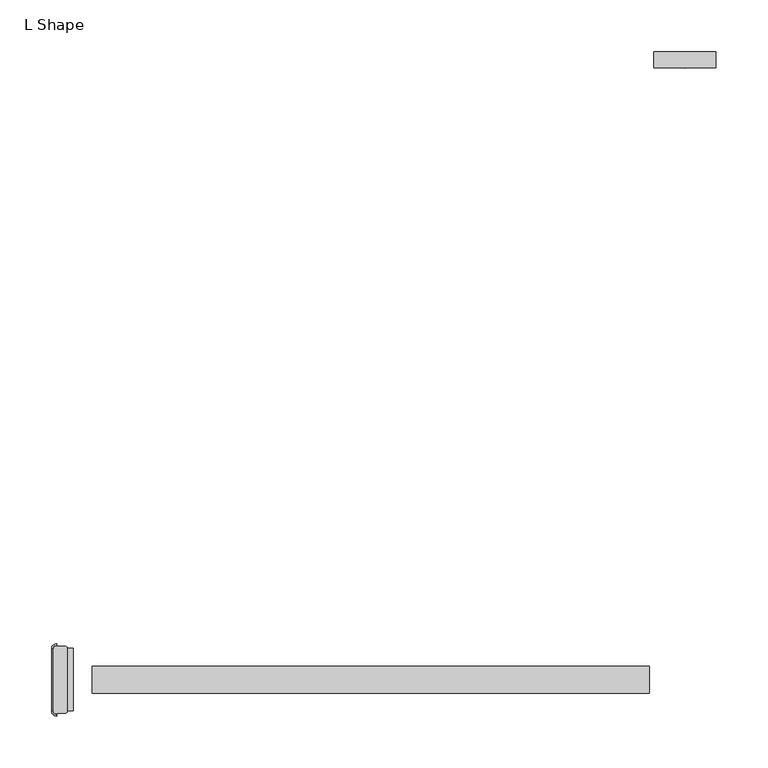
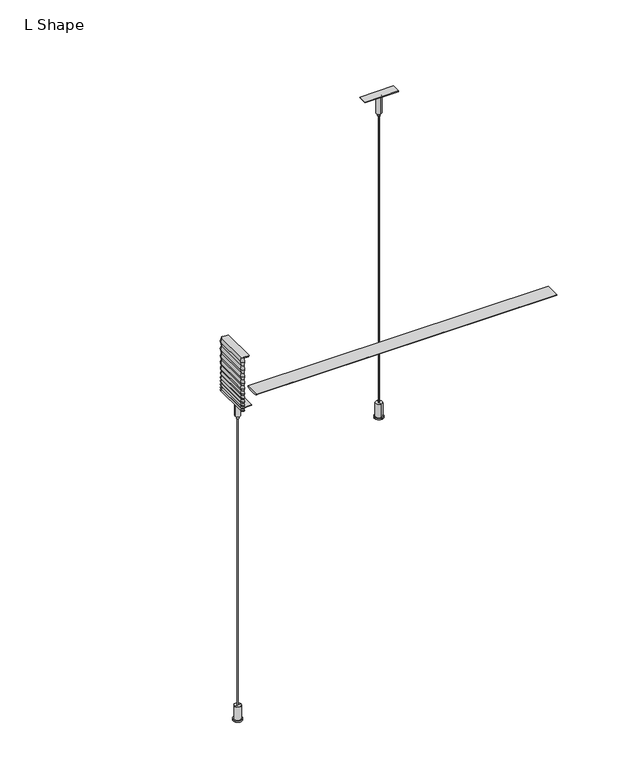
"""IFC4 building model written with IfcOpenShell, lengths in millimetres: light fixture geometry, Lighting-Pendant-Betacalco-Bellows-L_Shape : L Shape."""

from ifc_helpers import new_model, si_unit, point, frame, frame_2d, origin, place, context, project, spatial, polyline, circle_curve, trimmed, segment, composite_curve, outline, extrude, source, transform, mapped, element, save
from ifc_brep_helpers import plane_surface, cylinder_surface, revolved_surface, advanced_brep


def l_shape_06cc43b9(model_context):
    return source(origin(), model_context, "Body", "SolidModel", [
        advanced_brep(
        [(-304.8, 35.1474913, 611.632), (-304.8, 33.3694913, 613.664), (-304.8, 35.1474913, 616.204), (-304.8, 33.3694913, 618.744), (-304.8, 35.1474913, 621.792), (-304.8, 33.3694913, 624.84), (-304.8, 35.1474913, 628.396), (-304.8, 33.3694913, 631.952), (-304.8, 35.1474913, 635.762), (-304.8, 33.3694913, 639.572), (-304.8, 35.11885, 644.0703509), (-304.8, 33.3966915, 648.6460566), (-304.8, 35.1239968, 653.7288728), (-304.8, 33.3919128, 658.8119386), (-304.8, 35.1278878, 664.402389), (-304.8, 33.3882749, 669.9929656), (-304.8, 35.1308966, 676.091104), (-304.8, 33.3848944, 682.1911894), (-304.8, 35.1351705, 689.3067168), (-304.8, 33.3815995, 696.4195673), (-304.8, 35.1359826, 703.786321), (-304.8, 33.3694913, 711.2), (-304.8, 32.6229178, 711.2), (-304.8, 32.6229178, 709.8332722), (-304.8, -32.6229178, 709.8332722), (-304.8, -32.6229178, 711.2), (-304.8, -33.3694913, 711.2), (-304.8, -35.1359826, 703.786321), (-304.8, -33.3815995, 696.4195673), (-304.8, -35.1351705, 689.3067168), (-304.8, -33.3848944, 682.1911894), (-304.8, -35.1308966, 676.091104), (-304.8, -33.3882749, 669.9929656), (-304.8, -35.1278878, 664.402389), (-304.8, -33.3919128, 658.8119386), (-304.8, -35.1239968, 653.7288728), (-304.8, -33.3966915, 648.6460566), (-304.8, -35.11885, 644.0703509), (-304.8, -33.3694913, 639.572), (-304.8, -35.1474913, 635.762), (-304.8, -33.3694913, 631.952), (-304.8, -35.1474913, 628.396), (-304.8, -33.3694913, 624.84), (-304.8, -35.1474913, 621.792), (-304.8, -33.3694913, 618.744), (-304.8, -35.1474913, 616.204), (-304.8, -33.3694913, 613.664), (-304.8, -35.1474913, 611.632), (-304.8, -33.3694913, 609.6), (-304.8, 33.3694913, 609.6), (-308.213, 29.9564913, 609.6), (-309.991, 29.9564913, 611.632), (-308.213, -29.9564913, 609.6), (-308.213, 29.9564913, 711.2), (-308.213, -29.9564913, 711.2), (-295.9807007, -32.5154703, 711.2), (-294.8222216, -31.4000598, 711.2), (-294.8222216, 31.4000598, 711.2), (-295.9807007, 32.5154703, 711.2), (-309.9794913, 29.9564913, 703.786321), (-308.2251082, 29.9564913, 696.4195673), (-309.9786792, 29.9564913, 689.3067168), (-308.2284031, 29.9564913, 682.1911894), (-309.9744054, 29.9564913, 676.091104), (-308.2317837, 29.9564913, 669.9929656), (-309.9713965, 29.9564913, 664.402389), (-308.2354215, 29.9564913, 658.8119386), (-309.9675055, 29.9564913, 653.7288728), (-308.2402002, 29.9564913, 648.6460566), (-309.9623587, 29.9564913, 644.0703509), (-308.213, 29.9564913, 639.572), (-309.991, 29.9564913, 635.762), (-308.213, 29.9564913, 631.952), (-309.991, 29.9564913, 628.396), (-308.213, 29.9564913, 624.84), (-309.991, 29.9564913, 621.792), (-308.213, 29.9564913, 618.744), (-309.991, 29.9564913, 616.204), (-308.213, 29.9564913, 613.664), (-309.991, -29.9564913, 611.632), (-309.9794913, -29.9564913, 703.786321), (-308.2251082, -29.9564913, 696.4195673), (-309.9786792, -29.9564913, 689.3067168), (-308.2284031, -29.9564913, 682.1911894), (-309.9744054, -29.9564913, 676.091104), (-308.2317837, -29.9564913, 669.9929656), (-309.9713965, -29.9564913, 664.402389), (-308.2354215, -29.9564913, 658.8119386), (-309.9675055, -29.9564913, 653.7288728), (-308.2402002, -29.9564913, 648.6460566), (-309.9623587, -29.9564913, 644.0703509), (-308.213, -29.9564913, 639.572), (-309.991, -29.9564913, 635.762), (-308.213, -29.9564913, 631.952), (-309.991, -29.9564913, 628.396), (-308.213, -29.9564913, 624.84), (-309.991, -29.9564913, 621.792), (-308.213, -29.9564913, 618.744), (-309.991, -29.9564913, 616.204), (-308.213, -29.9564913, 613.664), (-294.8222216, -31.4000598, 709.8332722), (-295.9807007, -32.5154703, 709.8332722), (-295.9807007, 32.5154703, 709.8332722), (-294.8222216, 31.4000598, 709.8332722)],
        [
            (0, 1),
            (1, 2),
            (2, 3),
            (3, 4),
            (4, 5),
            (5, 6),
            (6, 7),
            (7, 8),
            (8, 9),
            (9, 10),
            (10, 11),
            (11, 12),
            (12, 13),
            (13, 14),
            (14, 15),
            (15, 16),
            (16, 17),
            (17, 18),
            (18, 19),
            (19, 20),
            (20, 21),
            (21, 22),
            (22, 23),
            (23, 24),
            (24, 25),
            (25, 26),
            (26, 27),
            (27, 28),
            (28, 29),
            (29, 30),
            (30, 31),
            (31, 32),
            (32, 33),
            (33, 34),
            (34, 35),
            (35, 36),
            (36, 37),
            (37, 38),
            (38, 39),
            (39, 40),
            (40, 41),
            (41, 42),
            (42, 43),
            (43, 44),
            (44, 45),
            (45, 46),
            (46, 47),
            (47, 48),
            (48, 49),
            (49, 0),
            (49, 50, circle_curve(frame((-304.8, 29.9564913, 609.6), z_axis=(0.0, 0.0, 1.0), x_axis=(0.0, 1.0, 0.0)), 3.413)),
            (50, 51),
            (51, 0, circle_curve(frame((-304.8, 29.9564913, 611.632), z_axis=(0.0, 0.0, -1.0), x_axis=(0.0, 1.0, 0.0)), 5.191)),
            (48, 52, circle_curve(frame((-304.8, -29.9564913, 609.6), z_axis=(0.0, 0.0, -1.0), x_axis=(-1.0, 0.0, 0.0)), 3.413)),
            (52, 50),
            (53, 54),
            (54, 26, circle_curve(frame((-304.8, -29.9564913, 711.2), z_axis=(0.0, 0.0, 1.0), x_axis=(-1.0, 0.0, 0.0)), 3.413)),
            (25, 55),
            (55, 56),
            (56, 57),
            (57, 58),
            (58, 22),
            (21, 53, circle_curve(frame((-304.8, 29.9564913, 711.2), z_axis=(0.0, 0.0, 1.0), x_axis=(0.0, 1.0, 0.0)), 3.413)),
            (20, 59, circle_curve(frame((-304.8, 29.9564913, 703.786321), z_axis=(0.0, 0.0, 1.0), x_axis=(0.0, 1.0, 0.0)), 5.1794913)),
            (59, 53),
            (19, 60, circle_curve(frame((-304.8, 29.9564913, 696.4195673), z_axis=(0.0, 0.0, 1.0), x_axis=(0.0, 1.0, 0.0)), 3.4251082)),
            (60, 59),
            (18, 61, circle_curve(frame((-304.8, 29.9564913, 689.3067168), z_axis=(0.0, 0.0, 1.0), x_axis=(0.0, 1.0, 0.0)), 5.1786792)),
            (61, 60),
            (17, 62, circle_curve(frame((-304.8, 29.9564913, 682.1911894), z_axis=(0.0, 0.0, 1.0), x_axis=(0.0, 1.0, 0.0)), 3.4284031)),
            (62, 61),
            (16, 63, circle_curve(frame((-304.8, 29.9564913, 676.091104), z_axis=(0.0, 0.0, 1.0), x_axis=(0.0, 1.0, 0.0)), 5.1744054)),
            (63, 62),
            (15, 64, circle_curve(frame((-304.8, 29.9564913, 669.9929656), z_axis=(0.0, 0.0, 1.0), x_axis=(0.0, 1.0, 0.0)), 3.4317837)),
            (64, 63),
            (14, 65, circle_curve(frame((-304.8, 29.9564913, 664.402389), z_axis=(0.0, 0.0, 1.0), x_axis=(0.0, 1.0, 0.0)), 5.1713965)),
            (65, 64),
            (13, 66, circle_curve(frame((-304.8, 29.9564913, 658.8119386), z_axis=(0.0, 0.0, 1.0), x_axis=(0.0, 1.0, 0.0)), 3.4354215)),
            (66, 65),
            (12, 67, circle_curve(frame((-304.8, 29.9564913, 653.7288728), z_axis=(0.0, 0.0, 1.0), x_axis=(0.0, 1.0, 0.0)), 5.1675055)),
            (67, 66),
            (11, 68, circle_curve(frame((-304.8, 29.9564913, 648.6460566), z_axis=(0.0, 0.0, 1.0), x_axis=(0.0, 1.0, 0.0)), 3.4402002)),
            (68, 67),
            (10, 69, circle_curve(frame((-304.8, 29.9564913, 644.0703509), z_axis=(0.0, 0.0, 1.0), x_axis=(0.0, 1.0, 0.0)), 5.1623587)),
            (69, 68),
            (9, 70, circle_curve(frame((-304.8, 29.9564913, 639.572), z_axis=(0.0, 0.0, 1.0), x_axis=(0.0, 1.0, 0.0)), 3.413)),
            (70, 69),
            (8, 71, circle_curve(frame((-304.8, 29.9564913, 635.762), z_axis=(0.0, 0.0, 1.0), x_axis=(0.0, 1.0, 0.0)), 5.191)),
            (71, 70),
            (7, 72, circle_curve(frame((-304.8, 29.9564913, 631.952), z_axis=(0.0, 0.0, 1.0), x_axis=(0.0, 1.0, 0.0)), 3.413)),
            (72, 71),
            (6, 73, circle_curve(frame((-304.8, 29.9564913, 628.396), z_axis=(0.0, 0.0, 1.0), x_axis=(0.0, 1.0, 0.0)), 5.191)),
            (73, 72),
            (5, 74, circle_curve(frame((-304.8, 29.9564913, 624.84), z_axis=(0.0, 0.0, 1.0), x_axis=(0.0, 1.0, 0.0)), 3.413)),
            (74, 73),
            (4, 75, circle_curve(frame((-304.8, 29.9564913, 621.792), z_axis=(0.0, 0.0, 1.0), x_axis=(0.0, 1.0, 0.0)), 5.191)),
            (75, 74),
            (3, 76, circle_curve(frame((-304.8, 29.9564913, 618.744), z_axis=(0.0, 0.0, 1.0), x_axis=(0.0, 1.0, 0.0)), 3.413)),
            (76, 75),
            (2, 77, circle_curve(frame((-304.8, 29.9564913, 616.204), z_axis=(0.0, 0.0, 1.0), x_axis=(0.0, 1.0, 0.0)), 5.191)),
            (77, 76),
            (1, 78, circle_curve(frame((-304.8, 29.9564913, 613.664), z_axis=(0.0, 0.0, 1.0), x_axis=(0.0, 1.0, 0.0)), 3.413)),
            (78, 77),
            (51, 78),
            (52, 79),
            (79, 51),
            (59, 80),
            (80, 54),
            (60, 81),
            (81, 80),
            (61, 82),
            (82, 81),
            (62, 83),
            (83, 82),
            (63, 84),
            (84, 83),
            (64, 85),
            (85, 84),
            (65, 86),
            (86, 85),
            (66, 87),
            (87, 86),
            (67, 88),
            (88, 87),
            (68, 89),
            (89, 88),
            (69, 90),
            (90, 89),
            (70, 91),
            (91, 90),
            (71, 92),
            (92, 91),
            (72, 93),
            (93, 92),
            (73, 94),
            (94, 93),
            (74, 95),
            (95, 94),
            (75, 96),
            (96, 95),
            (76, 97),
            (97, 96),
            (77, 98),
            (98, 97),
            (78, 99),
            (99, 98),
            (79, 99),
            (100, 101),
            (101, 24),
            (23, 102),
            (102, 103),
            (103, 100),
            (55, 101),
            (100, 56),
            (58, 102),
            (57, 103),
            (47, 79, circle_curve(frame((-304.8, -29.9564913, 611.632), z_axis=(0.0, 0.0, -1.0), x_axis=(-1.0, 0.0, 0.0)), 5.191)),
            (80, 27, circle_curve(frame((-304.8, -29.9564913, 703.786321), z_axis=(0.0, 0.0, 1.0), x_axis=(-1.0, 0.0, 0.0)), 5.1794913)),
            (81, 28, circle_curve(frame((-304.8, -29.9564913, 696.4195673), z_axis=(0.0, 0.0, 1.0), x_axis=(-1.0, 0.0, 0.0)), 3.4251082)),
            (82, 29, circle_curve(frame((-304.8, -29.9564913, 689.3067168), z_axis=(0.0, 0.0, 1.0), x_axis=(-1.0, 0.0, 0.0)), 5.1786792)),
            (83, 30, circle_curve(frame((-304.8, -29.9564913, 682.1911894), z_axis=(0.0, 0.0, 1.0), x_axis=(-1.0, 0.0, 0.0)), 3.4284031)),
            (84, 31, circle_curve(frame((-304.8, -29.9564913, 676.091104), z_axis=(0.0, 0.0, 1.0), x_axis=(-1.0, 0.0, 0.0)), 5.1744054)),
            (85, 32, circle_curve(frame((-304.8, -29.9564913, 669.9929656), z_axis=(0.0, 0.0, 1.0), x_axis=(-1.0, 0.0, 0.0)), 3.4317837)),
            (86, 33, circle_curve(frame((-304.8, -29.9564913, 664.402389), z_axis=(0.0, 0.0, 1.0), x_axis=(-1.0, 0.0, 0.0)), 5.1713965)),
            (87, 34, circle_curve(frame((-304.8, -29.9564913, 658.8119386), z_axis=(0.0, 0.0, 1.0), x_axis=(-1.0, 0.0, 0.0)), 3.4354215)),
            (88, 35, circle_curve(frame((-304.8, -29.9564913, 653.7288728), z_axis=(0.0, 0.0, 1.0), x_axis=(-1.0, 0.0, 0.0)), 5.1675055)),
            (89, 36, circle_curve(frame((-304.8, -29.9564913, 648.6460566), z_axis=(0.0, 0.0, 1.0), x_axis=(-1.0, 0.0, 0.0)), 3.4402002)),
            (90, 37, circle_curve(frame((-304.8, -29.9564913, 644.0703509), z_axis=(0.0, 0.0, 1.0), x_axis=(-1.0, 0.0, 0.0)), 5.1623587)),
            (91, 38, circle_curve(frame((-304.8, -29.9564913, 639.572), z_axis=(0.0, 0.0, 1.0), x_axis=(-1.0, 0.0, 0.0)), 3.413)),
            (92, 39, circle_curve(frame((-304.8, -29.9564913, 635.762), z_axis=(0.0, 0.0, 1.0), x_axis=(-1.0, 0.0, 0.0)), 5.191)),
            (93, 40, circle_curve(frame((-304.8, -29.9564913, 631.952), z_axis=(0.0, 0.0, 1.0), x_axis=(-1.0, 0.0, 0.0)), 3.413)),
            (94, 41, circle_curve(frame((-304.8, -29.9564913, 628.396), z_axis=(0.0, 0.0, 1.0), x_axis=(-1.0, 0.0, 0.0)), 5.191)),
            (95, 42, circle_curve(frame((-304.8, -29.9564913, 624.84), z_axis=(0.0, 0.0, 1.0), x_axis=(-1.0, 0.0, 0.0)), 3.413)),
            (96, 43, circle_curve(frame((-304.8, -29.9564913, 621.792), z_axis=(0.0, 0.0, 1.0), x_axis=(-1.0, 0.0, 0.0)), 5.191)),
            (97, 44, circle_curve(frame((-304.8, -29.9564913, 618.744), z_axis=(0.0, 0.0, 1.0), x_axis=(-1.0, 0.0, 0.0)), 3.413)),
            (98, 45, circle_curve(frame((-304.8, -29.9564913, 616.204), z_axis=(0.0, 0.0, 1.0), x_axis=(-1.0, 0.0, 0.0)), 5.191)),
            (99, 46, circle_curve(frame((-304.8, -29.9564913, 613.664), z_axis=(0.0, 0.0, 1.0), x_axis=(-1.0, 0.0, 0.0)), 3.413)),
        ],
        [
            plane_surface(frame((-304.8, 35.3935941, 609.6), z_axis=(1.0, 0.0, 0.0), x_axis=(0.0, 0.0, 1.0))),
            revolved_surface(polyline([(-304.8, 35.1474913, 611.632), (-304.8, 33.3694913, 609.6)]), (-304.8, 29.9564913, 609.6), (0.0, 0.0, -1.0)),
            plane_surface(frame((-304.8, 29.9564913, 609.6), z_axis=(0.0, 0.0, -1.0), x_axis=(0.0, 1.0, 0.0))),
            plane_surface(frame((-304.8, 29.9564913, 711.2), z_axis=(0.0, 0.0, 1.0), x_axis=(0.0, 1.0, 0.0))),
            revolved_surface(polyline([(-304.8, 33.3694913, 711.2), (-304.8, 35.1359826, 703.786321)]), (-304.8, 29.9564913, 609.6), (0.0, 0.0, -1.0)),
            revolved_surface(polyline([(-304.8, 35.1359826, 703.786321), (-304.8, 33.3815995, 696.4195673)]), (-304.8, 29.9564913, 609.6), (0.0, 0.0, -1.0)),
            revolved_surface(polyline([(-304.8, 33.3815995, 696.4195673), (-304.8, 35.1351705, 689.3067168)]), (-304.8, 29.9564913, 609.6), (0.0, 0.0, -1.0)),
            revolved_surface(polyline([(-304.8, 35.1351705, 689.3067168), (-304.8, 33.3848944, 682.1911894)]), (-304.8, 29.9564913, 609.6), (0.0, 0.0, -1.0)),
            revolved_surface(polyline([(-304.8, 33.3848944, 682.1911894), (-304.8, 35.1308966, 676.091104)]), (-304.8, 29.9564913, 609.6), (0.0, 0.0, -1.0)),
            revolved_surface(polyline([(-304.8, 35.1308966, 676.091104), (-304.8, 33.3882749, 669.9929656)]), (-304.8, 29.9564913, 609.6), (0.0, 0.0, -1.0)),
            revolved_surface(polyline([(-304.8, 33.3882749, 669.9929656), (-304.8, 35.1278878, 664.402389)]), (-304.8, 29.9564913, 609.6), (0.0, 0.0, -1.0)),
            revolved_surface(polyline([(-304.8, 35.1278878, 664.402389), (-304.8, 33.3919128, 658.8119386)]), (-304.8, 29.9564913, 609.6), (0.0, 0.0, -1.0)),
            revolved_surface(polyline([(-304.8, 33.3919128, 658.8119386), (-304.8, 35.1239968, 653.7288728)]), (-304.8, 29.9564913, 609.6), (0.0, 0.0, -1.0)),
            revolved_surface(polyline([(-304.8, 35.1239968, 653.7288728), (-304.8, 33.3966915, 648.6460566)]), (-304.8, 29.9564913, 609.6), (0.0, 0.0, -1.0)),
            revolved_surface(polyline([(-304.8, 33.3966915, 648.6460566), (-304.8, 35.11885, 644.0703509)]), (-304.8, 29.9564913, 609.6), (0.0, 0.0, -1.0)),
            revolved_surface(polyline([(-304.8, 35.11885, 644.0703509), (-304.8, 33.3694913, 639.572)]), (-304.8, 29.9564913, 609.6), (0.0, 0.0, -1.0)),
            revolved_surface(polyline([(-304.8, 33.3694913, 639.572), (-304.8, 35.1474913, 635.762)]), (-304.8, 29.9564913, 609.6), (0.0, 0.0, -1.0)),
            revolved_surface(polyline([(-304.8, 35.1474913, 635.762), (-304.8, 33.3694913, 631.952)]), (-304.8, 29.9564913, 609.6), (0.0, 0.0, -1.0)),
            revolved_surface(polyline([(-304.8, 33.3694913, 631.952), (-304.8, 35.1474913, 628.396)]), (-304.8, 29.9564913, 609.6), (0.0, 0.0, -1.0)),
            revolved_surface(polyline([(-304.8, 35.1474913, 628.396), (-304.8, 33.3694913, 624.84)]), (-304.8, 29.9564913, 609.6), (0.0, 0.0, -1.0)),
            revolved_surface(polyline([(-304.8, 33.3694913, 624.84), (-304.8, 35.1474913, 621.792)]), (-304.8, 29.9564913, 609.6), (0.0, 0.0, -1.0)),
            revolved_surface(polyline([(-304.8, 35.1474913, 621.792), (-304.8, 33.3694913, 618.744)]), (-304.8, 29.9564913, 609.6), (0.0, 0.0, -1.0)),
            revolved_surface(polyline([(-304.8, 33.3694913, 618.744), (-304.8, 35.1474913, 616.204)]), (-304.8, 29.9564913, 609.6), (0.0, 0.0, -1.0)),
            revolved_surface(polyline([(-304.8, 35.1474913, 616.204), (-304.8, 33.3694913, 613.664)]), (-304.8, 29.9564913, 609.6), (0.0, 0.0, -1.0)),
            revolved_surface(polyline([(-304.8, 33.3694913, 613.664), (-304.8, 35.1474913, 611.632)]), (-304.8, 29.9564913, 609.6), (0.0, 0.0, -1.0)),
            plane_surface(frame((-309.991, 29.9564913, 611.632), z_axis=(-0.7525766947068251, 0.0, -0.6585046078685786), x_axis=(0.0, -1.0, 0.0))),
            plane_surface(frame((-308.213, 29.9564913, 711.2), z_axis=(-0.9727668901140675, 0.0, 0.23178562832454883), x_axis=(0.0, -1.0, 0.0))),
            plane_surface(frame((-309.9794913, 29.9564913, 703.786321), z_axis=(-0.9727944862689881, 0.0, -0.23166978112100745), x_axis=(0.0, -1.0, 0.0))),
            plane_surface(frame((-308.2251082, 29.9564913, 696.4195673), z_axis=(-0.9709287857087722, 0.0, 0.23936852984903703), x_axis=(0.0, -1.0, 0.0))),
            plane_surface(frame((-309.9786792, 29.9564913, 689.3067168), z_axis=(-0.9710540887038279, 0.0, -0.23885970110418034), x_axis=(0.0, -1.0, 0.0))),
            plane_surface(frame((-308.2284031, 29.9564913, 682.1911894), z_axis=(-0.9613939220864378, 0.0, 0.27517581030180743), x_axis=(0.0, -1.0, 0.0))),
            plane_surface(frame((-309.9744054, 29.9564913, 676.091104), z_axis=(-0.9615116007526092, 0.0, -0.2747643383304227), x_axis=(0.0, -1.0, 0.0))),
            plane_surface(frame((-308.2317837, 29.9564913, 669.9929656), z_axis=(-0.9548411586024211, 0.0, 0.29711674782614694), x_axis=(0.0, -1.0, 0.0))),
            plane_surface(frame((-309.9713965, 29.9564913, 664.402389), z_axis=(-0.9550153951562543, 0.0, -0.29655622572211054), x_axis=(0.0, -1.0, 0.0))),
            plane_surface(frame((-308.2354215, 29.9564913, 658.8119386), z_axis=(-0.9465545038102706, 0.0, 0.3225439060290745), x_axis=(0.0, -1.0, 0.0))),
            plane_surface(frame((-309.9675055, 29.9564913, 653.7288728), z_axis=(-0.9468211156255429, 0.0, -0.3217604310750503), x_axis=(0.0, -1.0, 0.0))),
            plane_surface(frame((-308.2402002, 29.9564913, 648.6460566), z_axis=(-0.9359069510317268, 0.0, 0.3522473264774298), x_axis=(0.0, -1.0, 0.0))),
            plane_surface(frame((-309.9623587, 29.9564913, 644.0703509), z_axis=(-0.9320046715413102, 0.0, -0.36244626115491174), x_axis=(0.0, -1.0, 0.0))),
            plane_surface(frame((-308.213, 29.9564913, 639.572), z_axis=(-0.9061831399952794, 0.0, 0.42288546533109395), x_axis=(0.0, -1.0, 0.0))),
            plane_surface(frame((-309.991, 29.9564913, 635.762), z_axis=(-0.9061831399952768, 0.0, -0.42288546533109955), x_axis=(0.0, -1.0, 0.0))),
            plane_surface(frame((-308.213, 29.9564913, 631.952), z_axis=(-0.8944271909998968, 0.0, 0.4472135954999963), x_axis=(0.0, -1.0, 0.0))),
            plane_surface(frame((-309.991, 29.9564913, 628.396), z_axis=(-0.8944271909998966, 0.0, -0.44721359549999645), x_axis=(0.0, -1.0, 0.0))),
            plane_surface(frame((-308.213, 29.9564913, 624.84), z_axis=(-0.8637789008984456, 0.0, 0.5038710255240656), x_axis=(0.0, -1.0, 0.0))),
            plane_surface(frame((-309.991, 29.9564913, 621.792), z_axis=(-0.8637789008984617, 0.0, -0.503871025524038), x_axis=(0.0, -1.0, 0.0))),
            plane_surface(frame((-308.213, 29.9564913, 618.744), z_axis=(-0.8192319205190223, 0.0, 0.5734623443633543), x_axis=(0.0, -1.0, 0.0))),
            plane_surface(frame((-309.991, 29.9564913, 616.204), z_axis=(-0.8192319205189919, 0.0, -0.5734623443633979), x_axis=(0.0, -1.0, 0.0))),
            plane_surface(frame((-308.213, 29.9564913, 613.664), z_axis=(-0.7525766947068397, 0.0, 0.6585046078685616), x_axis=(0.0, -1.0, 0.0))),
            plane_surface(frame((-294.8222216, -31.4000598, 709.8332722), z_axis=(0.0, 0.0, -1.0), x_axis=(0.7203705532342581, 0.6935894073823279, 0.0))),
            plane_surface(frame((-294.8222216, -31.4000598, 711.2), z_axis=(0.6935894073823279, -0.7203705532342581, 0.0), x_axis=(0.0, 0.0, -1.0))),
            plane_surface(frame((-295.9807007, -32.5154703, 711.2), z_axis=(0.012182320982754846, -0.9999257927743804, 0.0), x_axis=(0.0, 0.0, -1.0))),
            plane_surface(frame((-304.8, 32.6229178, 711.2), z_axis=(0.012182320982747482, 0.9999257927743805, 0.0), x_axis=(0.0, 0.0, -1.0))),
            plane_surface(frame((-295.9807007, 32.5154703, 711.2), z_axis=(0.6935894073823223, 0.7203705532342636, 0.0), x_axis=(0.0, 0.0, -1.0))),
            plane_surface(frame((-294.8222216, 31.4000598, 711.2), z_axis=(1.0, 0.0, 0.0), x_axis=(0.0, 0.0, -1.0))),
            revolved_surface(polyline([(-309.991, -29.9564913, 611.632), (-308.213, -29.9564913, 609.6)]), (-304.8, -29.9564913, 609.6), (0.0, 0.0, -1.0)),
            revolved_surface(polyline([(-308.213, -29.9564913, 711.2), (-309.9794913, -29.9564913, 703.786321)]), (-304.8, -29.9564913, 609.6), (0.0, 0.0, -1.0)),
            revolved_surface(polyline([(-309.9794913, -29.9564913, 703.786321), (-308.2251082, -29.9564913, 696.4195673)]), (-304.8, -29.9564913, 609.6), (0.0, 0.0, -1.0)),
            revolved_surface(polyline([(-308.2251082, -29.9564913, 696.4195673), (-309.9786792, -29.9564913, 689.3067168)]), (-304.8, -29.9564913, 609.6), (0.0, 0.0, -1.0)),
            revolved_surface(polyline([(-309.9786792, -29.9564913, 689.3067168), (-308.2284031, -29.9564913, 682.1911894)]), (-304.8, -29.9564913, 609.6), (0.0, 0.0, -1.0)),
            revolved_surface(polyline([(-308.2284031, -29.9564913, 682.1911894), (-309.9744054, -29.9564913, 676.091104)]), (-304.8, -29.9564913, 609.6), (0.0, 0.0, -1.0)),
            revolved_surface(polyline([(-309.9744054, -29.9564913, 676.091104), (-308.2317837, -29.9564913, 669.9929656)]), (-304.8, -29.9564913, 609.6), (0.0, 0.0, -1.0)),
            revolved_surface(polyline([(-308.2317837, -29.9564913, 669.9929656), (-309.9713965, -29.9564913, 664.402389)]), (-304.8, -29.9564913, 609.6), (0.0, 0.0, -1.0)),
            revolved_surface(polyline([(-309.9713965, -29.9564913, 664.402389), (-308.2354215, -29.9564913, 658.8119386)]), (-304.8, -29.9564913, 609.6), (0.0, 0.0, -1.0)),
            revolved_surface(polyline([(-308.2354215, -29.9564913, 658.8119386), (-309.9675055, -29.9564913, 653.7288728)]), (-304.8, -29.9564913, 609.6), (0.0, 0.0, -1.0)),
            revolved_surface(polyline([(-309.9675055, -29.9564913, 653.7288728), (-308.2402002, -29.9564913, 648.6460566)]), (-304.8, -29.9564913, 609.6), (0.0, 0.0, -1.0)),
            revolved_surface(polyline([(-308.2402002, -29.9564913, 648.6460566), (-309.9623587, -29.9564913, 644.0703509)]), (-304.8, -29.9564913, 609.6), (0.0, 0.0, -1.0)),
            revolved_surface(polyline([(-309.9623587, -29.9564913, 644.0703509), (-308.213, -29.9564913, 639.572)]), (-304.8, -29.9564913, 609.6), (0.0, 0.0, -1.0)),
            revolved_surface(polyline([(-308.213, -29.9564913, 639.572), (-309.991, -29.9564913, 635.762)]), (-304.8, -29.9564913, 609.6), (0.0, 0.0, -1.0)),
            revolved_surface(polyline([(-309.991, -29.9564913, 635.762), (-308.213, -29.9564913, 631.952)]), (-304.8, -29.9564913, 609.6), (0.0, 0.0, -1.0)),
            revolved_surface(polyline([(-308.213, -29.9564913, 631.952), (-309.991, -29.9564913, 628.396)]), (-304.8, -29.9564913, 609.6), (0.0, 0.0, -1.0)),
            revolved_surface(polyline([(-309.991, -29.9564913, 628.396), (-308.213, -29.9564913, 624.84)]), (-304.8, -29.9564913, 609.6), (0.0, 0.0, -1.0)),
            revolved_surface(polyline([(-308.213, -29.9564913, 624.84), (-309.991, -29.9564913, 621.792)]), (-304.8, -29.9564913, 609.6), (0.0, 0.0, -1.0)),
            revolved_surface(polyline([(-309.991, -29.9564913, 621.792), (-308.213, -29.9564913, 618.744)]), (-304.8, -29.9564913, 609.6), (0.0, 0.0, -1.0)),
            revolved_surface(polyline([(-308.213, -29.9564913, 618.744), (-309.991, -29.9564913, 616.204)]), (-304.8, -29.9564913, 609.6), (0.0, 0.0, -1.0)),
            revolved_surface(polyline([(-309.991, -29.9564913, 616.204), (-308.213, -29.9564913, 613.664)]), (-304.8, -29.9564913, 609.6), (0.0, 0.0, -1.0)),
            revolved_surface(polyline([(-308.213, -29.9564913, 613.664), (-309.991, -29.9564913, 611.632)]), (-304.8, -29.9564913, 609.6), (0.0, 0.0, -1.0)),
        ],
        [
            (0, [[1, 2, 3, 4, 5, 6, 7, 8, 9, 10, 11, 12, 13, 14, 15, 16, 17, 18, 19, 20, 21, 22, 23, 24, 25, 26, 27, 28, 29, 30, 31, 32, 33, 34, 35, 36, 37, 38, 39, 40, 41, 42, 43, 44, 45, 46, 47, 48, 49, 50]]),
            (1, [[51, 52, 53, -50]]),
            (2, [[54, 55, -51, -49]]),
            (3, [[56, 57, -26, 58, 59, 60, 61, 62, -22, 63]]),
            (4, [[64, 65, -63, -21]]),
            (5, [[66, 67, -64, -20]]),
            (6, [[68, 69, -66, -19]]),
            (7, [[70, 71, -68, -18]]),
            (8, [[72, 73, -70, -17]]),
            (9, [[74, 75, -72, -16]]),
            (10, [[76, 77, -74, -15]]),
            (11, [[78, 79, -76, -14]]),
            (12, [[80, 81, -78, -13]]),
            (13, [[82, 83, -80, -12]]),
            (14, [[84, 85, -82, -11]]),
            (15, [[86, 87, -84, -10]]),
            (16, [[88, 89, -86, -9]]),
            (17, [[90, 91, -88, -8]]),
            (18, [[92, 93, -90, -7]]),
            (19, [[94, 95, -92, -6]]),
            (20, [[96, 97, -94, -5]]),
            (21, [[98, 99, -96, -4]]),
            (22, [[100, 101, -98, -3]]),
            (23, [[102, 103, -100, -2]]),
            (24, [[-53, 104, -102, -1]]),
            (25, [[-55, 105, 106, -52]]),
            (26, [[-65, 107, 108, -56]]),
            (27, [[109, 110, -107, -67]]),
            (28, [[111, 112, -109, -69]]),
            (29, [[113, 114, -111, -71]]),
            (30, [[115, 116, -113, -73]]),
            (31, [[117, 118, -115, -75]]),
            (32, [[119, 120, -117, -77]]),
            (33, [[121, 122, -119, -79]]),
            (34, [[123, 124, -121, -81]]),
            (35, [[125, 126, -123, -83]]),
            (36, [[127, 128, -125, -85]]),
            (37, [[129, 130, -127, -87]]),
            (38, [[131, 132, -129, -89]]),
            (39, [[133, 134, -131, -91]]),
            (40, [[135, 136, -133, -93]]),
            (41, [[137, 138, -135, -95]]),
            (42, [[139, 140, -137, -97]]),
            (43, [[141, 142, -139, -99]]),
            (44, [[143, 144, -141, -101]]),
            (45, [[145, 146, -143, -103]]),
            (46, [[-106, 147, -145, -104]]),
            (47, [[148, 149, -24, 150, 151, 152]]),
            (48, [[153, -148, 154, -59]]),
            (49, [[-25, -149, -153, -58]]),
            (50, [[155, -150, -23, -62]]),
            (51, [[156, -151, -155, -61]]),
            (52, [[-154, -152, -156, -60]]),
            (53, [[-48, 157, -105, -54]]),
            (54, [[-108, 158, -27, -57]]),
            (55, [[159, -28, -158, -110]]),
            (56, [[160, -29, -159, -112]]),
            (57, [[161, -30, -160, -114]]),
            (58, [[162, -31, -161, -116]]),
            (59, [[163, -32, -162, -118]]),
            (60, [[164, -33, -163, -120]]),
            (61, [[165, -34, -164, -122]]),
            (62, [[166, -35, -165, -124]]),
            (63, [[167, -36, -166, -126]]),
            (64, [[168, -37, -167, -128]]),
            (65, [[169, -38, -168, -130]]),
            (66, [[170, -39, -169, -132]]),
            (67, [[171, -40, -170, -134]]),
            (68, [[172, -41, -171, -136]]),
            (69, [[173, -42, -172, -138]]),
            (70, [[174, -43, -173, -140]]),
            (71, [[175, -44, -174, -142]]),
            (72, [[176, -45, -175, -144]]),
            (73, [[177, -46, -176, -146]]),
            (74, [[-157, -47, -177, -147]]),
        ],
    ),
        extrude(outline(composite_curve([segment(polyline([(-12.4477579, 616.3504727), (-13.0732308, 617.6039135), (13.0732308, 617.6039135), (12.4477579, 616.3504727)]), True, "CONTINUOUS"), segment(trimmed(circle_curve(frame_2d((9.7634085, 617.6899758)), 3.0000001), [point((12.4477579, 616.3504727))], [point((10.5526102, 614.7956432))], False, "CARTESIAN"), True, "CONTINUOUS"), segment(trimmed(circle_curve(frame_2d((0.0, 653.4964752)), 40.113738), [point((10.5526102, 614.7956432))], [point((-10.5526102, 614.7956432))], False, "CARTESIAN"), True, "CONTINUOUS"), segment(trimmed(circle_curve(frame_2d((-9.7634085, 617.6899758)), 3.0000001), [point((-10.5526102, 614.7956432))], [point((-12.4477579, 616.3504727))], False, "CARTESIAN"), True, "CONTINUOUS")], self_intersect=False)), frame((-270.51, 0.0, 0.0), z_axis=(1.0, 0.0, 0.0), x_axis=(0.0, 1.0, 0.0)), (0.0, 0.0, 1.0), 541.02),
        extrude(outline(polyline([(274.9042, 593.725), (274.9042, 609.6), (335.2292, 609.6), (335.2292, 593.725), (274.9042, 593.725)])), frame((0.0, 0.0, 612.648), z_axis=(0.0, 0.0, 1.0), x_axis=(1.0, 0.0, 0.0)), (0.0, 0.0, 1.0), 1.524),
        advanced_brep(
        [(304.8, 593.6625, 0.0), (304.8, 593.6625, 2.05), (304.8, 609.6625, 2.05), (304.8, 609.6625, 0.0), (304.8, 595.6625, 2.05), (304.8, 607.6625, 2.05), (304.8, 595.6625, 27.4), (304.8, 607.6625, 27.4), (304.8, 601.6625, 27.4), (304.8, 601.6625, 0.0)],
        [
            (0, 1),
            (1, 2, circle_curve(frame((304.8, 601.6625, 2.05), z_axis=(0.0, 0.0, -1.0), x_axis=(0.0, 1.0, 0.0)), 8.0)),
            (2, 3),
            (3, 0, circle_curve(frame((304.8, 601.6625, 0.0), z_axis=(0.0, 0.0, 1.0), x_axis=(0.0, 1.0, 0.0)), 8.0)),
            (2, 1, circle_curve(frame((304.8, 601.6625, 2.05), z_axis=(0.0, 0.0, -1.0), x_axis=(0.0, 1.0, 0.0)), 8.0)),
            (0, 3, circle_curve(frame((304.8, 601.6625, 0.0), z_axis=(0.0, 0.0, 1.0), x_axis=(0.0, 1.0, 0.0)), 8.0)),
            (1, 4),
            (4, 5, circle_curve(frame((304.8, 601.6625, 2.05), z_axis=(0.0, 0.0, -1.0), x_axis=(0.0, 1.0, 0.0)), 6.0)),
            (5, 2),
            (5, 4, circle_curve(frame((304.8, 601.6625, 2.05), z_axis=(0.0, 0.0, -1.0), x_axis=(0.0, 1.0, 0.0)), 6.0)),
            (4, 6),
            (6, 7, circle_curve(frame((304.8, 601.6625, 27.4), z_axis=(0.0, 0.0, -1.0), x_axis=(0.0, 1.0, 0.0)), 6.0)),
            (7, 5),
            (7, 6, circle_curve(frame((304.8, 601.6625, 27.4), z_axis=(0.0, 0.0, -1.0), x_axis=(0.0, 1.0, 0.0)), 6.0)),
            (6, 8),
            (8, 7),
            (9, 0),
            (3, 9),
        ],
        [
            cylinder_surface(frame((304.8, 601.6625, 2366.7150031), z_axis=(0.0, 0.0, -1.0), x_axis=(0.0, 1.0, 0.0)), 8.0),
            plane_surface(frame((304.8, 601.6625, 2.05), z_axis=(0.0, 0.0, 1.0), x_axis=(0.0, 1.0, 0.0))),
            cylinder_surface(frame((304.8, 601.6625, 2366.7150031), z_axis=(0.0, 0.0, -1.0), x_axis=(0.0, 1.0, 0.0)), 6.0),
            plane_surface(frame((304.8, 601.6625, 27.4), z_axis=(0.0, 0.0, 1.0), x_axis=(0.0, 1.0, 0.0))),
            plane_surface(frame((304.8, 601.6625, 0.0), z_axis=(0.0, 0.0, -1.0), x_axis=(0.0, 1.0, 0.0))),
        ],
        [
            (0, [[1, 2, 3, 4]]),
            (0, [[-3, 5, -1, 6]]),
            (1, [[7, 8, 9, -2]]),
            (1, [[-9, 10, -7, -5]]),
            (2, [[11, 12, 13, -8]]),
            (2, [[-13, 14, -11, -10]]),
            (3, [[15, 16, -12]]),
            (3, [[-16, -15, -14]]),
            (4, [[17, -4, 18]]),
            (4, [[-18, -6, -17]]),
        ],
    ),
        advanced_brep(
        [(304.8, 600.8687524, 27.4), (304.8, 600.8687524, 572.93256), (304.8, 602.4562476, 572.93256), (304.8, 602.4562476, 27.4), (304.8, 601.6625, 27.4), (304.8, 601.6625, 572.93256)],
        [
            (0, 1),
            (1, 2, circle_curve(frame((304.8, 601.6625, 572.93256), z_axis=(0.0, 0.0, -1.0), x_axis=(0.0, 1.0, 0.0)), 0.7937476)),
            (2, 3),
            (3, 0, circle_curve(frame((304.8, 601.6625, 27.4), z_axis=(0.0, 0.0, 1.0), x_axis=(0.0, 1.0, 0.0)), 0.7937476)),
            (2, 1, circle_curve(frame((304.8, 601.6625, 572.93256), z_axis=(0.0, 0.0, -1.0), x_axis=(0.0, 1.0, 0.0)), 0.7937476)),
            (0, 3, circle_curve(frame((304.8, 601.6625, 27.4), z_axis=(0.0, 0.0, 1.0), x_axis=(0.0, 1.0, 0.0)), 0.7937476)),
            (4, 0),
            (3, 4),
            (1, 5),
            (5, 2),
        ],
        [
            cylinder_surface(frame((304.8, 601.6625, 2366.7150031), z_axis=(0.0, 0.0, -1.0), x_axis=(0.0, 1.0, 0.0)), 0.7937476),
            plane_surface(frame((304.8, 601.6625, 27.4), z_axis=(0.0, 0.0, -1.0), x_axis=(0.0, 1.0, 0.0))),
            plane_surface(frame((304.8, 601.6625, 572.93256), z_axis=(0.0, 0.0, 1.0), x_axis=(0.0, 1.0, 0.0))),
        ],
        [
            (0, [[1, 2, 3, 4]]),
            (0, [[-3, 5, -1, 6]]),
            (1, [[7, -4, 8]]),
            (1, [[-8, -6, -7]]),
            (2, [[9, 10, -2]]),
            (2, [[-10, -9, -5]]),
        ],
    ),
        advanced_brep(
        [(304.8, 597.1921, 578.64756), (304.8, 597.1921, 612.648), (304.8, 606.1329, 612.648), (304.8, 606.1329, 578.64756), (304.8, 599.7321, 578.64756), (304.8, 603.5929, 578.64756), (304.8, 599.7321, 572.93256), (304.8, 603.5929, 572.93256), (304.8, 601.6625, 572.93256), (304.8, 601.6625, 612.648)],
        [
            (0, 1),
            (1, 2, circle_curve(frame((304.8, 601.6625, 612.648), z_axis=(0.0, 0.0, -1.0), x_axis=(0.0, 1.0, 0.0)), 4.4704)),
            (2, 3),
            (3, 0, circle_curve(frame((304.8, 601.6625, 578.64756), z_axis=(0.0, 0.0, 1.0), x_axis=(0.0, 1.0, 0.0)), 4.4704)),
            (2, 1, circle_curve(frame((304.8, 601.6625, 612.648), z_axis=(0.0, 0.0, -1.0), x_axis=(0.0, 1.0, 0.0)), 4.4704)),
            (0, 3, circle_curve(frame((304.8, 601.6625, 578.64756), z_axis=(0.0, 0.0, 1.0), x_axis=(0.0, 1.0, 0.0)), 4.4704)),
            (4, 0),
            (3, 5),
            (5, 4, circle_curve(frame((304.8, 601.6625, 578.64756), z_axis=(0.0, 0.0, 1.0), x_axis=(0.0, 1.0, 0.0)), 1.9304)),
            (4, 5, circle_curve(frame((304.8, 601.6625, 578.64756), z_axis=(0.0, 0.0, 1.0), x_axis=(0.0, 1.0, 0.0)), 1.9304)),
            (6, 4),
            (5, 7),
            (7, 6, circle_curve(frame((304.8, 601.6625, 572.93256), z_axis=(0.0, 0.0, 1.0), x_axis=(0.0, 1.0, 0.0)), 1.9304)),
            (6, 7, circle_curve(frame((304.8, 601.6625, 572.93256), z_axis=(0.0, 0.0, 1.0), x_axis=(0.0, 1.0, 0.0)), 1.9304)),
            (8, 6),
            (7, 8),
            (1, 9),
            (9, 2),
        ],
        [
            cylinder_surface(frame((304.8, 601.6625, 2366.7150031), z_axis=(0.0, 0.0, -1.0), x_axis=(0.0, 1.0, 0.0)), 4.4704),
            plane_surface(frame((304.8, 601.6625, 578.64756), z_axis=(0.0, 0.0, -1.0), x_axis=(0.0, 1.0, 0.0))),
            cylinder_surface(frame((304.8, 601.6625, 2366.7150031), z_axis=(0.0, 0.0, -1.0), x_axis=(0.0, 1.0, 0.0)), 1.9304),
            plane_surface(frame((304.8, 601.6625, 572.93256), z_axis=(0.0, 0.0, -1.0), x_axis=(0.0, 1.0, 0.0))),
            plane_surface(frame((304.8, 601.6625, 612.648), z_axis=(0.0, 0.0, 1.0), x_axis=(0.0, 1.0, 0.0))),
        ],
        [
            (0, [[1, 2, 3, 4]]),
            (0, [[-3, 5, -1, 6]]),
            (1, [[7, -4, 8, 9]]),
            (1, [[-8, -6, -7, 10]]),
            (2, [[11, -9, 12, 13]]),
            (2, [[-12, -10, -11, 14]]),
            (3, [[15, -13, 16]]),
            (3, [[-16, -14, -15]]),
            (4, [[17, 18, -2]]),
            (4, [[-18, -17, -5]]),
        ],
    ),
        extrude(outline(polyline([(-288.925, -29.8958), (-304.8, -29.8958), (-304.8, 30.4292), (-288.925, 30.4292), (-288.925, -29.8958)])), frame((0.0, 0.0, 612.648), z_axis=(0.0, 0.0, 1.0), x_axis=(1.0, 0.0, 0.0)), (0.0, 0.0, 1.0), 1.524),
        advanced_brep(
        [(-288.8625, 0.0, 0.0), (-288.8625, 0.0, 2.05), (-304.8625, 0.0, 2.05), (-304.8625, 0.0, 0.0), (-290.8625, 0.0, 2.05), (-302.8625, 0.0, 2.05), (-290.8625, 0.0, 27.4), (-302.8625, 0.0, 27.4), (-296.8625, 0.0, 27.4), (-296.8625, 0.0, 0.0)],
        [
            (0, 1),
            (1, 2, circle_curve(frame((-296.8625, 0.0, 2.05), z_axis=(0.0, 0.0, -1.0), x_axis=(-1.0, 0.0, 0.0)), 8.0)),
            (2, 3),
            (3, 0, circle_curve(frame((-296.8625, 0.0, 0.0), z_axis=(0.0, 0.0, 1.0), x_axis=(-1.0, 0.0, 0.0)), 8.0)),
            (2, 1, circle_curve(frame((-296.8625, 0.0, 2.05), z_axis=(0.0, 0.0, -1.0), x_axis=(-1.0, 0.0, 0.0)), 8.0)),
            (0, 3, circle_curve(frame((-296.8625, 0.0, 0.0), z_axis=(0.0, 0.0, 1.0), x_axis=(-1.0, 0.0, 0.0)), 8.0)),
            (1, 4),
            (4, 5, circle_curve(frame((-296.8625, 0.0, 2.05), z_axis=(0.0, 0.0, -1.0), x_axis=(-1.0, 0.0, 0.0)), 6.0)),
            (5, 2),
            (5, 4, circle_curve(frame((-296.8625, 0.0, 2.05), z_axis=(0.0, 0.0, -1.0), x_axis=(-1.0, 0.0, 0.0)), 6.0)),
            (4, 6),
            (6, 7, circle_curve(frame((-296.8625, 0.0, 27.4), z_axis=(0.0, 0.0, -1.0), x_axis=(-1.0, 0.0, 0.0)), 6.0)),
            (7, 5),
            (7, 6, circle_curve(frame((-296.8625, 0.0, 27.4), z_axis=(0.0, 0.0, -1.0), x_axis=(-1.0, 0.0, 0.0)), 6.0)),
            (6, 8),
            (8, 7),
            (9, 0),
            (3, 9),
        ],
        [
            cylinder_surface(frame((-296.8625, 0.0, 2366.7150031), z_axis=(0.0, 0.0, -1.0), x_axis=(-1.0, 0.0, 0.0)), 8.0),
            plane_surface(frame((-296.8625, 0.0, 2.05), z_axis=(0.0, 0.0, 1.0), x_axis=(-1.0, 0.0, 0.0))),
            cylinder_surface(frame((-296.8625, 0.0, 2366.7150031), z_axis=(0.0, 0.0, -1.0), x_axis=(-1.0, 0.0, 0.0)), 6.0),
            plane_surface(frame((-296.8625, 0.0, 27.4), z_axis=(0.0, 0.0, 1.0), x_axis=(-1.0, 0.0, 0.0))),
            plane_surface(frame((-296.8625, 0.0, 0.0), z_axis=(0.0, 0.0, -1.0), x_axis=(-1.0, 0.0, 0.0))),
        ],
        [
            (0, [[1, 2, 3, 4]]),
            (0, [[-3, 5, -1, 6]]),
            (1, [[7, 8, 9, -2]]),
            (1, [[-9, 10, -7, -5]]),
            (2, [[11, 12, 13, -8]]),
            (2, [[-13, 14, -11, -10]]),
            (3, [[15, 16, -12]]),
            (3, [[-16, -15, -14]]),
            (4, [[17, -4, 18]]),
            (4, [[-18, -6, -17]]),
        ],
    ),
        advanced_brep(
        [(-296.0687524, 0.0, 27.4), (-296.0687524, 0.0, 572.93256), (-297.6562476, 0.0, 572.93256), (-297.6562476, 0.0, 27.4), (-296.8625, 0.0, 27.4), (-296.8625, 0.0, 572.93256)],
        [
            (0, 1),
            (1, 2, circle_curve(frame((-296.8625, 0.0, 572.93256), z_axis=(0.0, 0.0, -1.0), x_axis=(-1.0, 0.0, 0.0)), 0.7937476)),
            (2, 3),
            (3, 0, circle_curve(frame((-296.8625, 0.0, 27.4), z_axis=(0.0, 0.0, 1.0), x_axis=(-1.0, 0.0, 0.0)), 0.7937476)),
            (2, 1, circle_curve(frame((-296.8625, 0.0, 572.93256), z_axis=(0.0, 0.0, -1.0), x_axis=(-1.0, 0.0, 0.0)), 0.7937476)),
            (0, 3, circle_curve(frame((-296.8625, 0.0, 27.4), z_axis=(0.0, 0.0, 1.0), x_axis=(-1.0, 0.0, 0.0)), 0.7937476)),
            (4, 0),
            (3, 4),
            (1, 5),
            (5, 2),
        ],
        [
            cylinder_surface(frame((-296.8625, 0.0, 2366.7150031), z_axis=(0.0, 0.0, -1.0), x_axis=(-1.0, 0.0, 0.0)), 0.7937476),
            plane_surface(frame((-296.8625, 0.0, 27.4), z_axis=(0.0, 0.0, -1.0), x_axis=(-1.0, 0.0, 0.0))),
            plane_surface(frame((-296.8625, 0.0, 572.93256), z_axis=(0.0, 0.0, 1.0), x_axis=(-1.0, 0.0, 0.0))),
        ],
        [
            (0, [[1, 2, 3, 4]]),
            (0, [[-3, 5, -1, 6]]),
            (1, [[7, -4, 8]]),
            (1, [[-8, -6, -7]]),
            (2, [[9, 10, -2]]),
            (2, [[-10, -9, -5]]),
        ],
    ),
        advanced_brep(
        [(-292.3921, 0.0, 578.64756), (-292.3921, 0.0, 612.648), (-301.3329, 0.0, 612.648), (-301.3329, 0.0, 578.64756), (-294.9321, 0.0, 578.64756), (-298.7929, 0.0, 578.64756), (-294.9321, 0.0, 572.93256), (-298.7929, 0.0, 572.93256), (-296.8625, 0.0, 572.93256), (-296.8625, 0.0, 612.648)],
        [
            (0, 1),
            (1, 2, circle_curve(frame((-296.8625, 0.0, 612.648), z_axis=(0.0, 0.0, -1.0), x_axis=(-1.0, 0.0, 0.0)), 4.4704)),
            (2, 3),
            (3, 0, circle_curve(frame((-296.8625, 0.0, 578.64756), z_axis=(0.0, 0.0, 1.0), x_axis=(-1.0, 0.0, 0.0)), 4.4704)),
            (2, 1, circle_curve(frame((-296.8625, 0.0, 612.648), z_axis=(0.0, 0.0, -1.0), x_axis=(-1.0, 0.0, 0.0)), 4.4704)),
            (0, 3, circle_curve(frame((-296.8625, 0.0, 578.64756), z_axis=(0.0, 0.0, 1.0), x_axis=(-1.0, 0.0, 0.0)), 4.4704)),
            (4, 0),
            (3, 5),
            (5, 4, circle_curve(frame((-296.8625, 0.0, 578.64756), z_axis=(0.0, 0.0, 1.0), x_axis=(-1.0, 0.0, 0.0)), 1.9304)),
            (4, 5, circle_curve(frame((-296.8625, 0.0, 578.64756), z_axis=(0.0, 0.0, 1.0), x_axis=(-1.0, 0.0, 0.0)), 1.9304)),
            (6, 4),
            (5, 7),
            (7, 6, circle_curve(frame((-296.8625, 0.0, 572.93256), z_axis=(0.0, 0.0, 1.0), x_axis=(-1.0, 0.0, 0.0)), 1.9304)),
            (6, 7, circle_curve(frame((-296.8625, 0.0, 572.93256), z_axis=(0.0, 0.0, 1.0), x_axis=(-1.0, 0.0, 0.0)), 1.9304)),
            (8, 6),
            (7, 8),
            (1, 9),
            (9, 2),
        ],
        [
            cylinder_surface(frame((-296.8625, 0.0, 2366.7150031), z_axis=(0.0, 0.0, -1.0), x_axis=(-1.0, 0.0, 0.0)), 4.4704),
            plane_surface(frame((-296.8625, 0.0, 578.64756), z_axis=(0.0, 0.0, -1.0), x_axis=(-1.0, 0.0, 0.0))),
            cylinder_surface(frame((-296.8625, 0.0, 2366.7150031), z_axis=(0.0, 0.0, -1.0), x_axis=(-1.0, 0.0, 0.0)), 1.9304),
            plane_surface(frame((-296.8625, 0.0, 572.93256), z_axis=(0.0, 0.0, -1.0), x_axis=(-1.0, 0.0, 0.0))),
            plane_surface(frame((-296.8625, 0.0, 612.648), z_axis=(0.0, 0.0, 1.0), x_axis=(-1.0, 0.0, 0.0))),
        ],
        [
            (0, [[1, 2, 3, 4]]),
            (0, [[-3, 5, -1, 6]]),
            (1, [[7, -4, 8, 9]]),
            (1, [[-8, -6, -7, 10]]),
            (2, [[11, -9, 12, 13]]),
            (2, [[-12, -10, -11, 14]]),
            (3, [[15, -13, 16]]),
            (3, [[-16, -14, -15]]),
            (4, [[17, 18, -2]]),
            (4, [[-18, -17, -5]]),
        ],
    ),
    ])


if __name__ == "__main__":
    model = new_model("IFC4")
    model_context = context("Model", 3, world=origin())
    ifc_project = project(units=[si_unit("LENGTHUNIT", "METRE", prefix="MILLI")], contexts=[model_context])
    site = spatial("IfcSite", under=ifc_project)
    building = spatial("IfcBuilding", under=site)
    placement = place(None, origin())
    l_shape_shape = l_shape_06cc43b9(model_context)
    element("IfcLightFixture", 1, ObjectType="Lighting-Pendant-Betacalco-Bellows-L_Shape : L Shape", at=placement, inside=building, context=model_context, shape_type="MappedRepresentation", body=[
        mapped(l_shape_shape, transform((0.0, 0.0, 0.0), x_axis=(1.0, 0.0, 0.0), y_axis=(0.0, 1.0, 0.0), z_axis=(0.0, 0.0, 1.0))),
    ])
    save(model, "model.ifc")
